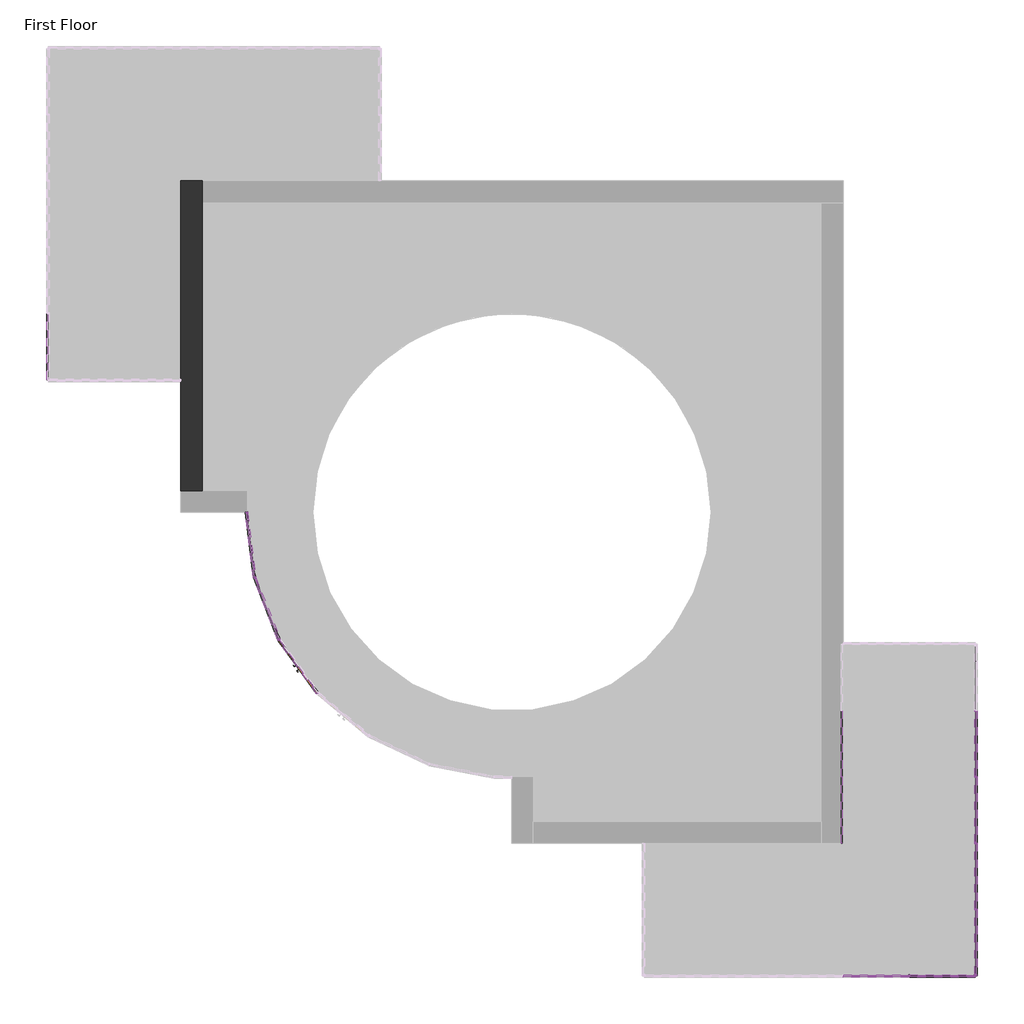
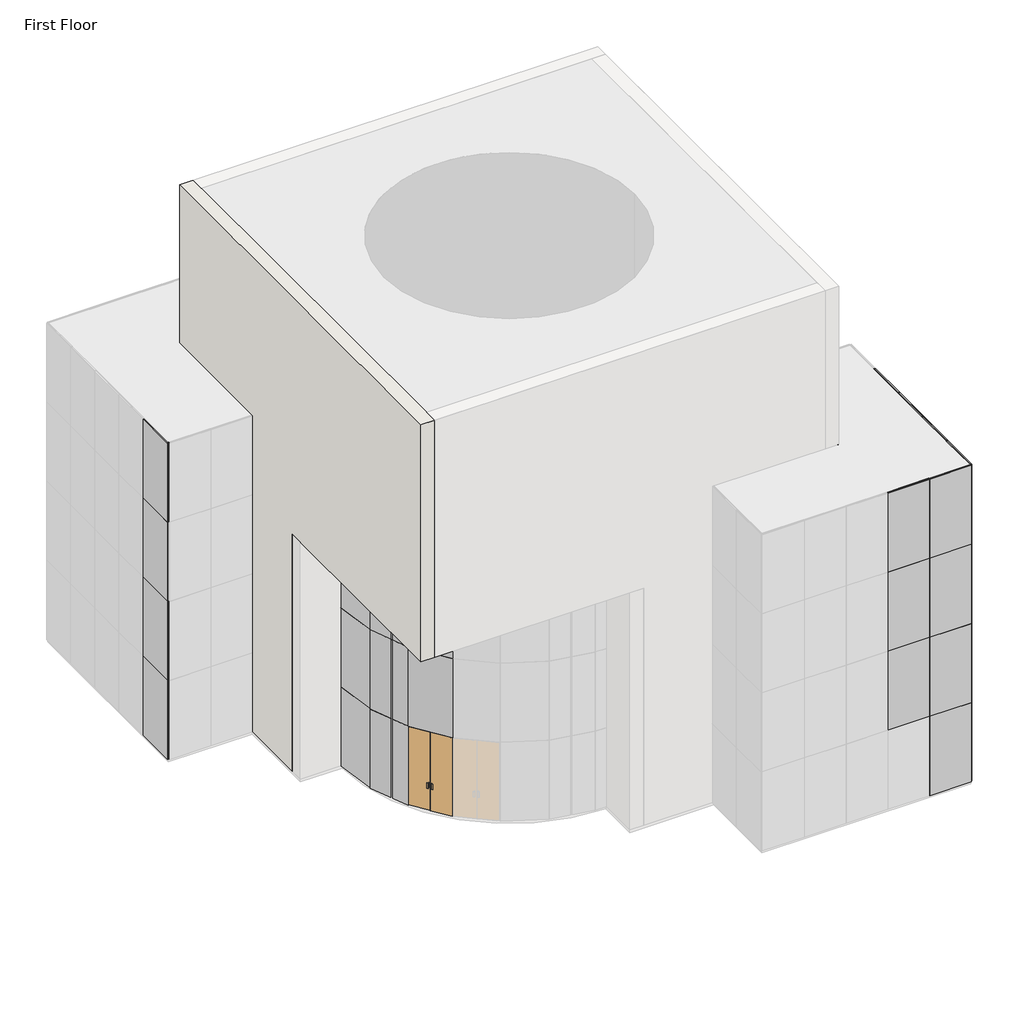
# One storey, part 2 of 4: 80 members, 43 plates, 1 door, 1 wall.
"""IFC4 building model written with IfcOpenShell, lengths in millimetres."""

from ifc_helpers import new_model, si_unit, origin, place, context, project, spatial, faceted_brep, transform, mapped, element, save
from components import door_curtain_wall_double_glass_door_curtain_wall_double_2d87b983, member_c999597c, member_cbdb9076, member_6d3da757, member_648f3f05, member_113f7001, member_7fb477b2, member_7e523723, member_e16e0e7d, member_15743826, member_c4f80b05, member_9fd3d903, member_6604d1e0, system_panel_glazed_c0c5e10a, system_panel_glazed_f4f95d4f

model = new_model("IFC4")

# Units and contexts
model_context = context("Model", 3, world=origin())
ifc_project = project(units=[si_unit("LENGTHUNIT", "METRE", prefix="MILLI")], contexts=[model_context])

# Site, building, storey
site = spatial("IfcSite", under=ifc_project)
building = spatial("IfcBuilding", under=site)
storey = spatial("IfcBuildingStorey", under=building, Name="First Floor", Elevation=0.0)

# Door
placement = place(None, origin())
door_curtain_wall_double_glass_door_curtain_wall_double_shape = door_curtain_wall_double_glass_door_curtain_wall_double_2d87b983(model_context)
element("IfcDoor", 1, ObjectType="Door-Curtain-Wall-Double-Glass : Door-Curtain-Wall-Double-Glass", at=placement, inside=storey, context=model_context, shape_type="MappedRepresentation", body=[
    mapped(door_curtain_wall_double_glass_door_curtain_wall_double_shape, transform((-8587.5385622, 405.4323781, 25.4), x_axis=(0.5864257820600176, -0.8100029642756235, 0.0), y_axis=(0.8100029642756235, 0.5864257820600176, 0.0), z_axis=(0.0, 0.0, 1.0))),
])

# Members
member_shape = member_c999597c(model_context)
element("IfcMember", 2, ObjectType="Rectangular Mullion : 1\" Square", at=placement, inside=storey, context=model_context, shape_type="MappedRepresentation", body=[
    mapped(member_shape, transform((-9781.313761, 3927.0446799, 0.0), x_axis=(0.0, 0.0, -1.0), y_axis=(-0.9921567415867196, -0.12500000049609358, 0.0), z_axis=(-0.12500000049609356, 0.9921567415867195, 0.0))),
])
member_2_shape = member_cbdb9076(model_context)
element("IfcMember", 3, ObjectType="Rectangular Mullion : 1\" Square", at=placement, inside=storey, context=model_context, shape_type="MappedRepresentation", body=[
    mapped(member_2_shape, transform((-9593.9887595, 2440.198581, 0.0), x_axis=(0.24803918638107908, -0.9687499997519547, 0.0), y_axis=(-0.9687499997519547, -0.24803918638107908, 0.0), z_axis=(0.0, 0.0, -1.0))),
])
element("IfcMember", 4, ObjectType="Rectangular Mullion : 1\" Square", at=placement, inside=storey, context=model_context, shape_type="MappedRepresentation", body=[
    mapped(member_2_shape, transform((-9034.3950081, 1022.6546369, 0.0), x_axis=(0.4805759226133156, -0.8769531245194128, 0.0), y_axis=(-0.8769531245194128, -0.4805759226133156, 0.0), z_axis=(0.0, 0.0, -1.0))),
])
element("IfcMember", 5, ObjectType="Rectangular Mullion : 1\" Square", at=placement, inside=storey, context=model_context, shape_type="MappedRepresentation", body=[
    mapped(member_2_shape, transform((5455.5112392, -6715.7545388, 0.0), x_axis=(1.0, 0.0, 0.0), y_axis=(0.0, -1.0, 0.0), z_axis=(0.0, 0.0, -1.0))),
])
element("IfcMember", 6, ObjectType="Rectangular Mullion : 1\" Square", at=placement, inside=storey, context=model_context, shape_type="MappedRepresentation", body=[
    mapped(member_2_shape, transform((6979.5112389, -5191.7545385, 0.0), x_axis=(0.0, 1.0, 0.0), y_axis=(1.0, 0.0, 0.0), z_axis=(0.0, 0.0, -1.0))),
])
element("IfcMember", 7, ObjectType="Rectangular Mullion : 1\" Square", at=placement, inside=storey, context=model_context, shape_type="MappedRepresentation", body=[
    mapped(member_2_shape, transform((6979.5112389, -3667.7545385, 0.0), x_axis=(0.0, 1.0, 0.0), y_axis=(1.0, 0.0, 0.0), z_axis=(0.0, 0.0, -1.0))),
])
element("IfcMember", 8, ObjectType="Rectangular Mullion : 1\" Square", at=placement, inside=storey, context=model_context, shape_type="MappedRepresentation", body=[
    mapped(member_2_shape, transform((6979.5112389, -2143.7545385, 0.0), x_axis=(0.0, 1.0, 0.0), y_axis=(1.0, 0.0, 0.0), z_axis=(0.0, 0.0, -1.0))),
])
element("IfcMember", 9, ObjectType="Rectangular Mullion : 1\" Square", at=placement, inside=storey, context=model_context, shape_type="MappedRepresentation", body=[
    mapped(member_2_shape, transform((6979.5112389, -619.7545385, 0.0), x_axis=(0.0, 1.0, 0.0), y_axis=(1.0, 0.0, 0.0), z_axis=(0.0, 0.0, -1.0))),
])
member_3_shape = member_6d3da757(model_context)
element("IfcMember", 10, ObjectType="Rectangular Mullion : 1\" Square", at=placement, inside=storey, context=model_context, shape_type="MappedRepresentation", body=[
    mapped(member_3_shape, transform((-9595.5762596, 2452.7989716, 3048.0), x_axis=(0.0, 0.0, 1.0), y_axis=(-0.9921567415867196, -0.12500000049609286, 0.0), z_axis=(0.12500000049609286, -0.9921567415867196, 0.0))),
])
element("IfcMember", 11, ObjectType="Rectangular Mullion : 1\" Square", at=placement, inside=storey, context=model_context, shape_type="MappedRepresentation", body=[
    mapped(member_3_shape, transform((-9595.5762596, 2452.7989716, 6096.0), x_axis=(0.0, 0.0, 1.0), y_axis=(-0.9921567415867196, -0.12500000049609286, 0.0), z_axis=(0.12500000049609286, -0.9921567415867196, 0.0))),
])
member_4_shape = member_648f3f05(model_context)
element("IfcMember", 12, ObjectType="Rectangular Mullion : 1\" Square", at=placement, inside=storey, context=model_context, shape_type="MappedRepresentation", body=[
    mapped(member_4_shape, transform((-9039.0582894, 1034.4675031, 3048.0), x_axis=(0.0, 0.0, 1.0), y_axis=(-0.9301469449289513, -0.367187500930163, 0.0), z_axis=(0.367187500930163, -0.9301469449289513, 0.0))),
])
element("IfcMember", 13, ObjectType="Rectangular Mullion : 1\" Square", at=placement, inside=storey, context=model_context, shape_type="MappedRepresentation", body=[
    mapped(member_4_shape, transform((-9039.0582894, 1034.4675031, 6096.0), x_axis=(0.0, 0.0, 1.0), y_axis=(-0.9301469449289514, -0.3671875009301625, 0.0), z_axis=(0.3671875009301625, -0.9301469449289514, 0.0))),
])
member_5_shape = member_113f7001(model_context)
element("IfcMember", 14, ObjectType="Rectangular Mullion : 1\" Square", at=placement, inside=storey, context=model_context, shape_type="MappedRepresentation", body=[
    mapped(member_5_shape, transform((-9589.3254783, 2428.3857148, 0.0), x_axis=(0.0, 0.0, -1.0), y_axis=(-0.9301469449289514, -0.3671875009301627, 0.0), z_axis=(-0.3671875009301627, 0.9301469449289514, 0.0))),
])
element("IfcMember", 15, ObjectType="Rectangular Mullion : 1\" Square", at=placement, inside=storey, context=model_context, shape_type="MappedRepresentation", body=[
    mapped(member_5_shape, transform((-9026.9474007, 1012.3675993, 0.0), x_axis=(0.0, 0.0, -1.0), y_axis=(-0.8100029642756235, -0.5864257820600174, 0.0), z_axis=(-0.5864257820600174, 0.8100029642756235, 0.0))),
])
member_6_shape = member_7fb477b2(model_context)
element("IfcMember", 16, ObjectType="Rectangular Mullion : 1\" Square", at=placement, inside=storey, context=model_context, shape_type="MappedRepresentation", body=[
    mapped(member_6_shape, transform((-9595.5762596, 2452.7989716, 9144.0), x_axis=(0.0, 0.0, 1.0), y_axis=(-0.9921567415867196, -0.12500000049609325, 0.0), z_axis=(0.12500000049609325, -0.9921567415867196, 0.0))),
])
element("IfcMember", 17, ObjectType="Rectangular Mullion : 1\" Square", at=placement, inside=storey, context=model_context, shape_type="MappedRepresentation", body=[
    mapped(member_5_shape, transform((-9039.0582894, 1034.4675031, 9144.0), x_axis=(0.0, 0.0, 1.0), y_axis=(-0.9301469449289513, -0.36718750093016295, 0.0), z_axis=(0.36718750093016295, -0.9301469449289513, 0.0))),
])
element("IfcMember", 18, ObjectType="Rectangular Mullion : 1\" Square", at=placement, inside=storey, context=model_context, shape_type="MappedRepresentation", body=[
    mapped(member_2_shape, transform((-9593.9887595, 2440.198581, 3048.0), x_axis=(0.24803918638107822, -0.968749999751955, 0.0), y_axis=(-0.968749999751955, -0.24803918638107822, 0.0), z_axis=(0.0, 0.0, -1.0))),
])
element("IfcMember", 19, ObjectType="Rectangular Mullion : 1\" Square", at=placement, inside=storey, context=model_context, shape_type="MappedRepresentation", body=[
    mapped(member_2_shape, transform((-9034.3950081, 1022.6546369, 3048.0), x_axis=(0.4805759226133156, -0.8769531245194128, 0.0), y_axis=(-0.8769531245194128, -0.4805759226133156, 0.0), z_axis=(0.0, 0.0, -1.0))),
])
element("IfcMember", 20, ObjectType="Rectangular Mullion : 1\" Square", at=placement, inside=storey, context=model_context, shape_type="MappedRepresentation", body=[
    mapped(member_2_shape, transform((5455.5112392, -6715.7545388, 3048.0), x_axis=(1.0, 0.0, 0.0), y_axis=(0.0, -1.0, 0.0), z_axis=(0.0, 0.0, -1.0))),
])
element("IfcMember", 21, ObjectType="Rectangular Mullion : 1\" Square", at=placement, inside=storey, context=model_context, shape_type="MappedRepresentation", body=[
    mapped(member_2_shape, transform((5455.5112392, -6715.7545388, 6096.0), x_axis=(1.0, 0.0, 0.0), y_axis=(0.0, -1.0, 0.0), z_axis=(0.0, 0.0, -1.0))),
])
element("IfcMember", 22, ObjectType="Rectangular Mullion : 1\" Square", at=placement, inside=storey, context=model_context, shape_type="MappedRepresentation", body=[
    mapped(member_2_shape, transform((6979.5112389, -5191.7545385, 3048.0), x_axis=(0.0, 1.0, 0.0), y_axis=(1.0, 0.0, 0.0), z_axis=(0.0, 0.0, -1.0))),
])
element("IfcMember", 23, ObjectType="Rectangular Mullion : 1\" Square", at=placement, inside=storey, context=model_context, shape_type="MappedRepresentation", body=[
    mapped(member_2_shape, transform((6979.5112389, -5191.7545385, 6096.0), x_axis=(0.0, 1.0, 0.0), y_axis=(1.0, 0.0, 0.0), z_axis=(0.0, 0.0, -1.0))),
])
element("IfcMember", 24, ObjectType="Rectangular Mullion : 1\" Square", at=placement, inside=storey, context=model_context, shape_type="MappedRepresentation", body=[
    mapped(member_2_shape, transform((6979.5112389, -3667.7545385, 3048.0), x_axis=(0.0, 1.0, 0.0), y_axis=(1.0, 0.0, 0.0), z_axis=(0.0, 0.0, -1.0))),
])
element("IfcMember", 25, ObjectType="Rectangular Mullion : 1\" Square", at=placement, inside=storey, context=model_context, shape_type="MappedRepresentation", body=[
    mapped(member_2_shape, transform((6979.5112389, -3667.7545385, 6096.0), x_axis=(0.0, 1.0, 0.0), y_axis=(1.0, 0.0, 0.0), z_axis=(0.0, 0.0, -1.0))),
])
element("IfcMember", 26, ObjectType="Rectangular Mullion : 1\" Square", at=placement, inside=storey, context=model_context, shape_type="MappedRepresentation", body=[
    mapped(member_2_shape, transform((6979.5112389, -2143.7545385, 3048.0), x_axis=(0.0, 1.0, 0.0), y_axis=(1.0, 0.0, 0.0), z_axis=(0.0, 0.0, -1.0))),
])
element("IfcMember", 27, ObjectType="Rectangular Mullion : 1\" Square", at=placement, inside=storey, context=model_context, shape_type="MappedRepresentation", body=[
    mapped(member_2_shape, transform((6979.5112389, -2143.7545385, 6096.0), x_axis=(0.0, 1.0, 0.0), y_axis=(1.0, 0.0, 0.0), z_axis=(0.0, 0.0, -1.0))),
])
element("IfcMember", 28, ObjectType="Rectangular Mullion : 1\" Square", at=placement, inside=storey, context=model_context, shape_type="MappedRepresentation", body=[
    mapped(member_2_shape, transform((6979.5112389, -619.7545385, 3048.0), x_axis=(0.0, 1.0, 0.0), y_axis=(1.0, 0.0, 0.0), z_axis=(0.0, 0.0, -1.0))),
])
element("IfcMember", 29, ObjectType="Rectangular Mullion : 1\" Square", at=placement, inside=storey, context=model_context, shape_type="MappedRepresentation", body=[
    mapped(member_2_shape, transform((6979.5112389, -619.7545385, 6096.0), x_axis=(0.0, 1.0, 0.0), y_axis=(1.0, 0.0, 0.0), z_axis=(0.0, 0.0, -1.0))),
])
element("IfcMember", 30, ObjectType="Rectangular Mullion : 1\" Square", at=placement, inside=storey, context=model_context, shape_type="MappedRepresentation", body=[
    mapped(member_2_shape, transform((-9593.9887595, 2440.198581, 6096.0), x_axis=(0.24803918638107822, -0.968749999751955, 0.0), y_axis=(-0.968749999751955, -0.24803918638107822, 0.0), z_axis=(0.0, 0.0, -1.0))),
])
element("IfcMember", 31, ObjectType="Rectangular Mullion : 1\" Square", at=placement, inside=storey, context=model_context, shape_type="MappedRepresentation", body=[
    mapped(member_2_shape, transform((-9034.3950081, 1022.6546369, 6096.0), x_axis=(0.4805759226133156, -0.8769531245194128, 0.0), y_axis=(-0.8769531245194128, -0.4805759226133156, 0.0), z_axis=(0.0, 0.0, -1.0))),
])
element("IfcMember", 32, ObjectType="Rectangular Mullion : 1\" Square", at=placement, inside=storey, context=model_context, shape_type="MappedRepresentation", body=[
    mapped(member_2_shape, transform((5455.5112392, -6715.7545388, 9144.0), x_axis=(1.0, 0.0, 0.0), y_axis=(0.0, -1.0, 0.0), z_axis=(0.0, 0.0, -1.0))),
])
element("IfcMember", 33, ObjectType="Rectangular Mullion : 1\" Square", at=placement, inside=storey, context=model_context, shape_type="MappedRepresentation", body=[
    mapped(member_2_shape, transform((6979.5112389, -5191.7545385, 9144.0), x_axis=(0.0, 1.0, 0.0), y_axis=(1.0, 0.0, 0.0), z_axis=(0.0, 0.0, -1.0))),
])
element("IfcMember", 34, ObjectType="Rectangular Mullion : 1\" Square", at=placement, inside=storey, context=model_context, shape_type="MappedRepresentation", body=[
    mapped(member_2_shape, transform((6979.5112389, -3667.7545385, 9144.0), x_axis=(0.0, 1.0, 0.0), y_axis=(1.0, 0.0, 0.0), z_axis=(0.0, 0.0, -1.0))),
])
element("IfcMember", 35, ObjectType="Rectangular Mullion : 1\" Square", at=placement, inside=storey, context=model_context, shape_type="MappedRepresentation", body=[
    mapped(member_2_shape, transform((6979.5112389, -2143.7545385, 9144.0), x_axis=(0.0, 1.0, 0.0), y_axis=(1.0, 0.0, 0.0), z_axis=(0.0, 0.0, -1.0))),
])
element("IfcMember", 36, ObjectType="Rectangular Mullion : 1\" Square", at=placement, inside=storey, context=model_context, shape_type="MappedRepresentation", body=[
    mapped(member_2_shape, transform((6979.5112389, -619.7545385, 9144.0), x_axis=(0.0, 1.0, 0.0), y_axis=(1.0, 0.0, 0.0), z_axis=(0.0, 0.0, -1.0))),
])
member_7_shape = member_7e523723(model_context)
element("IfcMember", 37, ObjectType="Rectangular Mullion : 1\" Square", at=placement, inside=storey, context=model_context, shape_type="MappedRepresentation", body=[
    mapped(member_7_shape, transform((6979.5112389, -6715.7545388, 0.0), x_axis=(1.0, 0.0, 0.0), y_axis=(0.0, -1.0, 0.0), z_axis=(0.0, 0.0, -1.0))),
])
element("IfcMember", 38, ObjectType="Rectangular Mullion : 1\" Square", at=placement, inside=storey, context=model_context, shape_type="MappedRepresentation", body=[
    mapped(member_7_shape, transform((-9784.4887611, 3952.2454612, 9144.0), x_axis=(-0.12500000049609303, 0.9921567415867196, 0.0), y_axis=(-0.9921567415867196, -0.12500000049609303, 0.0), z_axis=(0.0, 0.0, 1.0))),
])
element("IfcMember", 39, ObjectType="Rectangular Mullion : 1\" Square", at=placement, inside=storey, context=model_context, shape_type="MappedRepresentation", body=[
    mapped(member_7_shape, transform((-14356.4887611, 7000.2454612, 12192.0), x_axis=(-1.0, 0.0, 0.0), y_axis=(0.0, -1.0, 0.0), z_axis=(0.0, 0.0, 1.0))),
])
element("IfcMember", 40, ObjectType="Rectangular Mullion : 1\" Square", at=placement, inside=storey, context=model_context, shape_type="MappedRepresentation", body=[
    mapped(member_7_shape, transform((6979.5112389, -6715.7545388, 12192.0), x_axis=(0.0, -1.0, 0.0), y_axis=(1.0, 0.0, 0.0), z_axis=(0.0, 0.0, 1.0))),
])
element("IfcMember", 41, ObjectType="Rectangular Mullion : 1\" Square", at=placement, inside=storey, context=model_context, shape_type="MappedRepresentation", body=[
    mapped(member_7_shape, transform((-9784.4887611, 3952.2454612, 3048.0), x_axis=(-0.12500000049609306, 0.9921567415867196, 0.0), y_axis=(-0.9921567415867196, -0.12500000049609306, 0.0), z_axis=(0.0, 0.0, 1.0))),
])
element("IfcMember", 42, ObjectType="Rectangular Mullion : 1\" Square", at=placement, inside=storey, context=model_context, shape_type="MappedRepresentation", body=[
    mapped(member_7_shape, transform((-14356.4887611, 7000.2454612, 3048.0), x_axis=(-1.0, 0.0, 0.0), y_axis=(0.0, -1.0, 0.0), z_axis=(0.0, 0.0, 1.0))),
])
element("IfcMember", 43, ObjectType="Rectangular Mullion : 1\" Square", at=placement, inside=storey, context=model_context, shape_type="MappedRepresentation", body=[
    mapped(member_7_shape, transform((6979.5112389, -6715.7545388, 3048.0), x_axis=(0.0, -1.0, 0.0), y_axis=(1.0, 0.0, 0.0), z_axis=(0.0, 0.0, 1.0))),
])
element("IfcMember", 44, ObjectType="Rectangular Mullion : 1\" Square", at=placement, inside=storey, context=model_context, shape_type="MappedRepresentation", body=[
    mapped(member_7_shape, transform((-9784.4887611, 3952.2454612, 6096.0), x_axis=(-0.12500000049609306, 0.9921567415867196, 0.0), y_axis=(-0.9921567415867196, -0.12500000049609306, 0.0), z_axis=(0.0, 0.0, 1.0))),
])
element("IfcMember", 45, ObjectType="Rectangular Mullion : 1\" Square", at=placement, inside=storey, context=model_context, shape_type="MappedRepresentation", body=[
    mapped(member_7_shape, transform((-14356.4887611, 7000.2454612, 6096.0), x_axis=(-1.0, 0.0, 0.0), y_axis=(0.0, -1.0, 0.0), z_axis=(0.0, 0.0, 1.0))),
])
element("IfcMember", 46, ObjectType="Rectangular Mullion : 1\" Square", at=placement, inside=storey, context=model_context, shape_type="MappedRepresentation", body=[
    mapped(member_7_shape, transform((6979.5112389, -6715.7545388, 6096.0), x_axis=(0.0, -1.0, 0.0), y_axis=(1.0, 0.0, 0.0), z_axis=(0.0, 0.0, 1.0))),
])
element("IfcMember", 47, ObjectType="Rectangular Mullion : 1\" Square", at=placement, inside=storey, context=model_context, shape_type="MappedRepresentation", body=[
    mapped(member_7_shape, transform((6979.5112389, -6715.7545388, 9144.0), x_axis=(0.0, -1.0, 0.0), y_axis=(1.0, 0.0, 0.0), z_axis=(0.0, 0.0, 1.0))),
])
element("IfcMember", 48, ObjectType="Rectangular Mullion : 1\" Square", at=placement, inside=storey, context=model_context, shape_type="MappedRepresentation", body=[
    mapped(member_7_shape, transform((6979.5112389, -6715.7545388, 3048.0), x_axis=(1.0, 0.0, 0.0), y_axis=(0.0, -1.0, 0.0), z_axis=(0.0, 0.0, -1.0))),
])
element("IfcMember", 49, ObjectType="Rectangular Mullion : 1\" Square", at=placement, inside=storey, context=model_context, shape_type="MappedRepresentation", body=[
    mapped(member_7_shape, transform((6979.5112389, -6715.7545388, 6096.0), x_axis=(1.0, 0.0, 0.0), y_axis=(0.0, -1.0, 0.0), z_axis=(0.0, 0.0, -1.0))),
])
element("IfcMember", 50, ObjectType="Rectangular Mullion : 1\" Square", at=placement, inside=storey, context=model_context, shape_type="MappedRepresentation", body=[
    mapped(member_7_shape, transform((6979.5112389, -6715.7545388, 9144.0), x_axis=(1.0, 0.0, 0.0), y_axis=(0.0, -1.0, 0.0), z_axis=(0.0, 0.0, -1.0))),
])
member_8_shape = member_e16e0e7d(model_context)
element("IfcMember", 51, ObjectType="Rectangular Mullion : 1\" Square", at=placement, inside=storey, context=model_context, shape_type="MappedRepresentation", body=[
    mapped(member_8_shape, transform((6954.1112389, -6715.7545388, 12192.0), x_axis=(0.0, 0.0, 1.0), y_axis=(0.0, -1.0, 0.0), z_axis=(1.0, 0.0, 0.0))),
])
element("IfcMember", 52, ObjectType="Rectangular Mullion : 1\" Square", at=placement, inside=storey, context=model_context, shape_type="MappedRepresentation", body=[
    mapped(member_8_shape, transform((6979.5112389, -5204.4545385, 12192.0), x_axis=(0.0, 0.0, 1.0), y_axis=(1.0, 0.0, 0.0), z_axis=(0.0, 1.0, 0.0))),
])
member_9_shape = member_15743826(model_context)
element("IfcMember", 53, ObjectType="Rectangular Mullion : 1\" Square", at=placement, inside=storey, context=model_context, shape_type="MappedRepresentation", body=[
    mapped(member_9_shape, transform((-14331.0887611, 7000.2454612, 0.0), x_axis=(0.0, 0.0, -1.0), y_axis=(0.0, -1.0, 0.0), z_axis=(-1.0, 0.0, 0.0))),
])
element("IfcMember", 54, ObjectType="Rectangular Mullion : 1\" Square", at=placement, inside=storey, context=model_context, shape_type="MappedRepresentation", body=[
    mapped(member_9_shape, transform((5468.2112392, -6715.7545388, 0.0), x_axis=(0.0, 0.0, -1.0), y_axis=(0.0, -1.0, 0.0), z_axis=(-1.0, 0.0, 0.0))),
])
element("IfcMember", 55, ObjectType="Rectangular Mullion : 1\" Square", at=placement, inside=storey, context=model_context, shape_type="MappedRepresentation", body=[
    mapped(member_9_shape, transform((6979.5112389, -6690.3545388, 0.0), x_axis=(0.0, 0.0, -1.0), y_axis=(1.0, 0.0, 0.0), z_axis=(0.0, -1.0, 0.0))),
])
element("IfcMember", 56, ObjectType="Rectangular Mullion : 1\" Square", at=placement, inside=storey, context=model_context, shape_type="MappedRepresentation", body=[
    mapped(member_9_shape, transform((6979.5112389, -607.0545385, 0.0), x_axis=(0.0, 0.0, -1.0), y_axis=(1.0, 0.0, 0.0), z_axis=(0.0, -1.0, 0.0))),
])
member_10_shape = member_c4f80b05(model_context)
element("IfcMember", 57, ObjectType="Rectangular Mullion : 1\" Square", at=placement, inside=storey, context=model_context, shape_type="MappedRepresentation", body=[
    mapped(member_10_shape, transform((6954.1112389, -6715.7545388, 3048.0), x_axis=(0.0, 0.0, 1.0), y_axis=(0.0, -1.0, 0.0), z_axis=(1.0, 0.0, 0.0))),
])
element("IfcMember", 58, ObjectType="Rectangular Mullion : 1\" Square", at=placement, inside=storey, context=model_context, shape_type="MappedRepresentation", body=[
    mapped(member_10_shape, transform((6954.1112389, -6715.7545388, 6096.0), x_axis=(0.0, 0.0, 1.0), y_axis=(0.0, -1.0, 0.0), z_axis=(1.0, 0.0, 0.0))),
])
element("IfcMember", 59, ObjectType="Rectangular Mullion : 1\" Square", at=placement, inside=storey, context=model_context, shape_type="MappedRepresentation", body=[
    mapped(member_10_shape, transform((6954.1112389, -6715.7545388, 9144.0), x_axis=(0.0, 0.0, 1.0), y_axis=(0.0, -1.0, 0.0), z_axis=(1.0, 0.0, 0.0))),
])
element("IfcMember", 60, ObjectType="Rectangular Mullion : 1\" Square", at=placement, inside=storey, context=model_context, shape_type="MappedRepresentation", body=[
    mapped(member_10_shape, transform((6979.5112389, -5204.4545385, 3048.0), x_axis=(0.0, 0.0, 1.0), y_axis=(1.0, 0.0, 0.0), z_axis=(0.0, 1.0, 0.0))),
])
element("IfcMember", 61, ObjectType="Rectangular Mullion : 1\" Square", at=placement, inside=storey, context=model_context, shape_type="MappedRepresentation", body=[
    mapped(member_10_shape, transform((6979.5112389, -5204.4545385, 6096.0), x_axis=(0.0, 0.0, 1.0), y_axis=(1.0, 0.0, 0.0), z_axis=(0.0, 1.0, 0.0))),
])
element("IfcMember", 62, ObjectType="Rectangular Mullion : 1\" Square", at=placement, inside=storey, context=model_context, shape_type="MappedRepresentation", body=[
    mapped(member_10_shape, transform((6979.5112389, -5204.4545385, 9144.0), x_axis=(0.0, 0.0, 1.0), y_axis=(1.0, 0.0, 0.0), z_axis=(0.0, 1.0, 0.0))),
])
member_11_shape = member_9fd3d903(model_context)
element("IfcMember", 63, ObjectType="Rectangular Mullion : 1\" Square", at=placement, inside=storey, context=model_context, shape_type="MappedRepresentation", body=[
    mapped(member_11_shape, transform((5442.8112392, -6715.7545388, 3048.0), x_axis=(0.0, 0.0, 1.0), y_axis=(0.0, -1.0, 0.0), z_axis=(1.0, 0.0, 0.0))),
])
element("IfcMember", 64, ObjectType="Rectangular Mullion : 1\" Square", at=placement, inside=storey, context=model_context, shape_type="MappedRepresentation", body=[
    mapped(member_11_shape, transform((5442.8112392, -6715.7545388, 6096.0), x_axis=(0.0, 0.0, 1.0), y_axis=(0.0, -1.0, 0.0), z_axis=(1.0, 0.0, 0.0))),
])
element("IfcMember", 65, ObjectType="Rectangular Mullion : 1\" Square", at=placement, inside=storey, context=model_context, shape_type="MappedRepresentation", body=[
    mapped(member_11_shape, transform((5442.8112392, -6715.7545388, 9144.0), x_axis=(0.0, 0.0, 1.0), y_axis=(0.0, -1.0, 0.0), z_axis=(1.0, 0.0, 0.0))),
])
element("IfcMember", 66, ObjectType="Rectangular Mullion : 1\" Square", at=placement, inside=storey, context=model_context, shape_type="MappedRepresentation", body=[
    mapped(member_11_shape, transform((6979.5112389, -3680.4545385, 3048.0), x_axis=(0.0, 0.0, 1.0), y_axis=(1.0, 0.0, 0.0), z_axis=(0.0, 1.0, 0.0))),
])
element("IfcMember", 67, ObjectType="Rectangular Mullion : 1\" Square", at=placement, inside=storey, context=model_context, shape_type="MappedRepresentation", body=[
    mapped(member_11_shape, transform((6979.5112389, -2156.4545385, 3048.0), x_axis=(0.0, 0.0, 1.0), y_axis=(1.0, 0.0, 0.0), z_axis=(0.0, 1.0, 0.0))),
])
element("IfcMember", 68, ObjectType="Rectangular Mullion : 1\" Square", at=placement, inside=storey, context=model_context, shape_type="MappedRepresentation", body=[
    mapped(member_11_shape, transform((6979.5112389, -632.4545385, 3048.0), x_axis=(0.0, 0.0, 1.0), y_axis=(1.0, 0.0, 0.0), z_axis=(0.0, 1.0, 0.0))),
])
element("IfcMember", 69, ObjectType="Rectangular Mullion : 1\" Square", at=placement, inside=storey, context=model_context, shape_type="MappedRepresentation", body=[
    mapped(member_11_shape, transform((6979.5112389, -3680.4545385, 6096.0), x_axis=(0.0, 0.0, 1.0), y_axis=(1.0, 0.0, 0.0), z_axis=(0.0, 1.0, 0.0))),
])
element("IfcMember", 70, ObjectType="Rectangular Mullion : 1\" Square", at=placement, inside=storey, context=model_context, shape_type="MappedRepresentation", body=[
    mapped(member_11_shape, transform((6979.5112389, -2156.4545385, 6096.0), x_axis=(0.0, 0.0, 1.0), y_axis=(1.0, 0.0, 0.0), z_axis=(0.0, 1.0, 0.0))),
])
element("IfcMember", 71, ObjectType="Rectangular Mullion : 1\" Square", at=placement, inside=storey, context=model_context, shape_type="MappedRepresentation", body=[
    mapped(member_11_shape, transform((6979.5112389, -632.4545385, 6096.0), x_axis=(0.0, 0.0, 1.0), y_axis=(1.0, 0.0, 0.0), z_axis=(0.0, 1.0, 0.0))),
])
element("IfcMember", 72, ObjectType="Rectangular Mullion : 1\" Square", at=placement, inside=storey, context=model_context, shape_type="MappedRepresentation", body=[
    mapped(member_11_shape, transform((6979.5112389, -3680.4545385, 9144.0), x_axis=(0.0, 0.0, 1.0), y_axis=(1.0, 0.0, 0.0), z_axis=(0.0, 1.0, 0.0))),
])
element("IfcMember", 73, ObjectType="Rectangular Mullion : 1\" Square", at=placement, inside=storey, context=model_context, shape_type="MappedRepresentation", body=[
    mapped(member_11_shape, transform((6979.5112389, -2156.4545385, 9144.0), x_axis=(0.0, 0.0, 1.0), y_axis=(1.0, 0.0, 0.0), z_axis=(0.0, 1.0, 0.0))),
])
element("IfcMember", 74, ObjectType="Rectangular Mullion : 1\" Square", at=placement, inside=storey, context=model_context, shape_type="MappedRepresentation", body=[
    mapped(member_11_shape, transform((6979.5112389, -632.4545385, 9144.0), x_axis=(0.0, 0.0, 1.0), y_axis=(1.0, 0.0, 0.0), z_axis=(0.0, 1.0, 0.0))),
])
member_12_shape = member_6604d1e0(model_context)
element("IfcMember", 75, ObjectType="Rectangular Mullion : 1\" Square", at=placement, inside=storey, context=model_context, shape_type="MappedRepresentation", body=[
    mapped(member_12_shape, transform((6979.5112389, -5179.0545385, 0.0), x_axis=(0.0, 0.0, -1.0), y_axis=(1.0, 0.0, 0.0), z_axis=(0.0, -1.0, 0.0))),
])
element("IfcMember", 76, ObjectType="Rectangular Mullion : 1\" Square", at=placement, inside=storey, context=model_context, shape_type="MappedRepresentation", body=[
    mapped(member_12_shape, transform((6979.5112389, -3655.0545385, 0.0), x_axis=(0.0, 0.0, -1.0), y_axis=(1.0, 0.0, 0.0), z_axis=(0.0, -1.0, 0.0))),
])
element("IfcMember", 77, ObjectType="Rectangular Mullion : 1\" Square", at=placement, inside=storey, context=model_context, shape_type="MappedRepresentation", body=[
    mapped(member_12_shape, transform((6979.5112389, -2131.0545385, 0.0), x_axis=(0.0, 0.0, -1.0), y_axis=(1.0, 0.0, 0.0), z_axis=(0.0, -1.0, 0.0))),
])
element("IfcMember", 78, ObjectType="Rectangular Mullion : 1\" Square", at=placement, inside=storey, context=model_context, shape_type="MappedRepresentation", body=[
    mapped(member_12_shape, transform((5442.8112392, -6715.7545388, 12192.0), x_axis=(0.0, 0.0, 1.0), y_axis=(0.0, -1.0, 0.0), z_axis=(1.0, 0.0, 0.0))),
])
element("IfcMember", 79, ObjectType="Rectangular Mullion : 1\" Square", at=placement, inside=storey, context=model_context, shape_type="MappedRepresentation", body=[
    mapped(member_12_shape, transform((6979.5112389, -3680.4545385, 12192.0), x_axis=(0.0, 0.0, 1.0), y_axis=(1.0, 0.0, 0.0), z_axis=(0.0, 1.0, 0.0))),
])
element("IfcMember", 80, ObjectType="Rectangular Mullion : 1\" Square", at=placement, inside=storey, context=model_context, shape_type="MappedRepresentation", body=[
    mapped(member_12_shape, transform((6979.5112389, -2156.4545385, 12192.0), x_axis=(0.0, 0.0, 1.0), y_axis=(1.0, 0.0, 0.0), z_axis=(0.0, 1.0, 0.0))),
])
element("IfcMember", 81, ObjectType="Rectangular Mullion : 1\" Square", at=placement, inside=storey, context=model_context, shape_type="MappedRepresentation", body=[
    mapped(member_12_shape, transform((6979.5112389, -632.4545385, 12192.0), x_axis=(0.0, 0.0, 1.0), y_axis=(1.0, 0.0, 0.0), z_axis=(0.0, 1.0, 0.0))),
])

# Plates
system_panel_glazed_shape = system_panel_glazed_c0c5e10a(model_context)
element("IfcPlate", 82, ObjectType="System Panel : Glazed", at=placement, inside=storey, context=model_context, shape_type="MappedRepresentation", body=[
    mapped(system_panel_glazed_shape, transform((-14356.4887611, 7762.245461, 0.0), x_axis=(0.0, -1.0, 0.0), y_axis=(1.0, 0.0, 0.0), z_axis=(0.0, 0.0, 1.0))),
])
element("IfcPlate", 83, ObjectType="System Panel : Glazed", at=placement, inside=storey, context=model_context, shape_type="MappedRepresentation", body=[
    mapped(system_panel_glazed_shape, transform((-14356.4887611, 7762.245461, 3048.0), x_axis=(0.0, -1.0, 0.0), y_axis=(1.0, 0.0, 0.0), z_axis=(0.0, 0.0, 1.0))),
])
element("IfcPlate", 84, ObjectType="System Panel : Glazed", at=placement, inside=storey, context=model_context, shape_type="MappedRepresentation", body=[
    mapped(system_panel_glazed_shape, transform((-14356.4887611, 7762.245461, 6096.0), x_axis=(0.0, -1.0, 0.0), y_axis=(1.0, 0.0, 0.0), z_axis=(0.0, 0.0, 1.0))),
])
element("IfcPlate", 85, ObjectType="System Panel : Glazed", at=placement, inside=storey, context=model_context, shape_type="MappedRepresentation", body=[
    mapped(system_panel_glazed_shape, transform((-14356.4887611, 7762.245461, 9144.0), x_axis=(0.0, -1.0, 0.0), y_axis=(1.0, 0.0, 0.0), z_axis=(0.0, 0.0, 1.0))),
])
element("IfcPlate", 86, ObjectType="System Panel : Glazed", at=placement, inside=storey, context=model_context, shape_type="MappedRepresentation", body=[
    mapped(system_panel_glazed_shape, transform((6217.5112391, -6715.7545388, 0.0), x_axis=(1.0, 0.0, 0.0), y_axis=(0.0, 1.0, 0.0), z_axis=(0.0, 0.0, 1.0))),
])
element("IfcPlate", 87, ObjectType="System Panel : Glazed", at=placement, inside=storey, context=model_context, shape_type="MappedRepresentation", body=[
    mapped(system_panel_glazed_shape, transform((4693.5112392, -6715.7545388, 3048.0), x_axis=(1.0, 0.0, 0.0), y_axis=(0.0, 1.0, 0.0), z_axis=(0.0, 0.0, 1.0))),
])
element("IfcPlate", 88, ObjectType="System Panel : Glazed", at=placement, inside=storey, context=model_context, shape_type="MappedRepresentation", body=[
    mapped(system_panel_glazed_shape, transform((6217.5112391, -6715.7545388, 3048.0), x_axis=(1.0, 0.0, 0.0), y_axis=(0.0, 1.0, 0.0), z_axis=(0.0, 0.0, 1.0))),
])
element("IfcPlate", 89, ObjectType="System Panel : Glazed", at=placement, inside=storey, context=model_context, shape_type="MappedRepresentation", body=[
    mapped(system_panel_glazed_shape, transform((4693.5112392, -6715.7545388, 6096.0), x_axis=(1.0, 0.0, 0.0), y_axis=(0.0, 1.0, 0.0), z_axis=(0.0, 0.0, 1.0))),
])
element("IfcPlate", 90, ObjectType="System Panel : Glazed", at=placement, inside=storey, context=model_context, shape_type="MappedRepresentation", body=[
    mapped(system_panel_glazed_shape, transform((6217.5112391, -6715.7545388, 6096.0), x_axis=(1.0, 0.0, 0.0), y_axis=(0.0, 1.0, 0.0), z_axis=(0.0, 0.0, 1.0))),
])
element("IfcPlate", 91, ObjectType="System Panel : Glazed", at=placement, inside=storey, context=model_context, shape_type="MappedRepresentation", body=[
    mapped(system_panel_glazed_shape, transform((4693.5112392, -6715.7545388, 9144.0), x_axis=(1.0, 0.0, 0.0), y_axis=(0.0, 1.0, 0.0), z_axis=(0.0, 0.0, 1.0))),
])
element("IfcPlate", 92, ObjectType="System Panel : Glazed", at=placement, inside=storey, context=model_context, shape_type="MappedRepresentation", body=[
    mapped(system_panel_glazed_shape, transform((6217.5112391, -6715.7545388, 9144.0), x_axis=(1.0, 0.0, 0.0), y_axis=(0.0, 1.0, 0.0), z_axis=(0.0, 0.0, 1.0))),
])
element("IfcPlate", 93, ObjectType="System Panel : Glazed", at=placement, inside=storey, context=model_context, shape_type="MappedRepresentation", body=[
    mapped(system_panel_glazed_shape, transform((3931.5112389, -1381.7545391, 0.0), x_axis=(0.0, -1.0, 0.0), y_axis=(1.0, 0.0, 0.0), z_axis=(0.0, 0.0, 1.0))),
])
element("IfcPlate", 94, ObjectType="System Panel : Glazed", at=placement, inside=storey, context=model_context, shape_type="MappedRepresentation", body=[
    mapped(system_panel_glazed_shape, transform((3931.5112389, -2905.754539, 0.0), x_axis=(0.0, -1.0, 0.0), y_axis=(1.0, 0.0, 0.0), z_axis=(0.0, 0.0, 1.0))),
])
element("IfcPlate", 95, ObjectType="System Panel : Glazed", at=placement, inside=storey, context=model_context, shape_type="MappedRepresentation", body=[
    mapped(system_panel_glazed_shape, transform((3931.5112389, -1381.7545391, 3048.0), x_axis=(0.0, -1.0, 0.0), y_axis=(1.0, 0.0, 0.0), z_axis=(0.0, 0.0, 1.0))),
])
element("IfcPlate", 96, ObjectType="System Panel : Glazed", at=placement, inside=storey, context=model_context, shape_type="MappedRepresentation", body=[
    mapped(system_panel_glazed_shape, transform((3931.5112389, -2905.754539, 3048.0), x_axis=(0.0, -1.0, 0.0), y_axis=(1.0, 0.0, 0.0), z_axis=(0.0, 0.0, 1.0))),
])
element("IfcPlate", 97, ObjectType="System Panel : Glazed", at=placement, inside=storey, context=model_context, shape_type="MappedRepresentation", body=[
    mapped(system_panel_glazed_shape, transform((3931.5112389, -1381.7545391, 6096.0), x_axis=(0.0, -1.0, 0.0), y_axis=(1.0, 0.0, 0.0), z_axis=(0.0, 0.0, 1.0))),
])
element("IfcPlate", 98, ObjectType="System Panel : Glazed", at=placement, inside=storey, context=model_context, shape_type="MappedRepresentation", body=[
    mapped(system_panel_glazed_shape, transform((3931.5112389, -2905.754539, 6096.0), x_axis=(0.0, -1.0, 0.0), y_axis=(1.0, 0.0, 0.0), z_axis=(0.0, 0.0, 1.0))),
])
element("IfcPlate", 99, ObjectType="System Panel : Glazed", at=placement, inside=storey, context=model_context, shape_type="MappedRepresentation", body=[
    mapped(system_panel_glazed_shape, transform((3931.5112389, -1381.7545391, 9144.0), x_axis=(0.0, -1.0, 0.0), y_axis=(1.0, 0.0, 0.0), z_axis=(0.0, 0.0, 1.0))),
])
element("IfcPlate", 100, ObjectType="System Panel : Glazed", at=placement, inside=storey, context=model_context, shape_type="MappedRepresentation", body=[
    mapped(system_panel_glazed_shape, transform((3931.5112389, -2905.754539, 9144.0), x_axis=(0.0, -1.0, 0.0), y_axis=(1.0, 0.0, 0.0), z_axis=(0.0, 0.0, 1.0))),
])
element("IfcPlate", 101, ObjectType="System Panel : Glazed", at=placement, inside=storey, context=model_context, shape_type="MappedRepresentation", body=[
    mapped(system_panel_glazed_shape, transform((6979.5112389, -5953.7545387, 0.0), x_axis=(0.0, 1.0, 0.0), y_axis=(-1.0, 0.0, 0.0), z_axis=(0.0, 0.0, 1.0))),
])
element("IfcPlate", 102, ObjectType="System Panel : Glazed", at=placement, inside=storey, context=model_context, shape_type="MappedRepresentation", body=[
    mapped(system_panel_glazed_shape, transform((6979.5112389, -4429.7545385, 0.0), x_axis=(0.0, 1.0, 0.0), y_axis=(-1.0, 0.0, 0.0), z_axis=(0.0, 0.0, 1.0))),
])
element("IfcPlate", 103, ObjectType="System Panel : Glazed", at=placement, inside=storey, context=model_context, shape_type="MappedRepresentation", body=[
    mapped(system_panel_glazed_shape, transform((6979.5112389, -2905.7545385, 0.0), x_axis=(0.0, 1.0, 0.0), y_axis=(-1.0, 0.0, 0.0), z_axis=(0.0, 0.0, 1.0))),
])
element("IfcPlate", 104, ObjectType="System Panel : Glazed", at=placement, inside=storey, context=model_context, shape_type="MappedRepresentation", body=[
    mapped(system_panel_glazed_shape, transform((6979.5112389, -1381.7545385, 0.0), x_axis=(0.0, 1.0, 0.0), y_axis=(-1.0, 0.0, 0.0), z_axis=(0.0, 0.0, 1.0))),
])
element("IfcPlate", 105, ObjectType="System Panel : Glazed", at=placement, inside=storey, context=model_context, shape_type="MappedRepresentation", body=[
    mapped(system_panel_glazed_shape, transform((6979.5112389, -5953.7545387, 3048.0), x_axis=(0.0, 1.0, 0.0), y_axis=(-1.0, 0.0, 0.0), z_axis=(0.0, 0.0, 1.0))),
])
element("IfcPlate", 106, ObjectType="System Panel : Glazed", at=placement, inside=storey, context=model_context, shape_type="MappedRepresentation", body=[
    mapped(system_panel_glazed_shape, transform((6979.5112389, -4429.7545385, 3048.0), x_axis=(0.0, 1.0, 0.0), y_axis=(-1.0, 0.0, 0.0), z_axis=(0.0, 0.0, 1.0))),
])
element("IfcPlate", 107, ObjectType="System Panel : Glazed", at=placement, inside=storey, context=model_context, shape_type="MappedRepresentation", body=[
    mapped(system_panel_glazed_shape, transform((6979.5112389, -2905.7545385, 3048.0), x_axis=(0.0, 1.0, 0.0), y_axis=(-1.0, 0.0, 0.0), z_axis=(0.0, 0.0, 1.0))),
])
element("IfcPlate", 108, ObjectType="System Panel : Glazed", at=placement, inside=storey, context=model_context, shape_type="MappedRepresentation", body=[
    mapped(system_panel_glazed_shape, transform((6979.5112389, -1381.7545385, 3048.0), x_axis=(0.0, 1.0, 0.0), y_axis=(-1.0, 0.0, 0.0), z_axis=(0.0, 0.0, 1.0))),
])
element("IfcPlate", 109, ObjectType="System Panel : Glazed", at=placement, inside=storey, context=model_context, shape_type="MappedRepresentation", body=[
    mapped(system_panel_glazed_shape, transform((6979.5112389, -5953.7545387, 6096.0), x_axis=(0.0, 1.0, 0.0), y_axis=(-1.0, 0.0, 0.0), z_axis=(0.0, 0.0, 1.0))),
])
element("IfcPlate", 110, ObjectType="System Panel : Glazed", at=placement, inside=storey, context=model_context, shape_type="MappedRepresentation", body=[
    mapped(system_panel_glazed_shape, transform((6979.5112389, -4429.7545385, 6096.0), x_axis=(0.0, 1.0, 0.0), y_axis=(-1.0, 0.0, 0.0), z_axis=(0.0, 0.0, 1.0))),
])
element("IfcPlate", 111, ObjectType="System Panel : Glazed", at=placement, inside=storey, context=model_context, shape_type="MappedRepresentation", body=[
    mapped(system_panel_glazed_shape, transform((6979.5112389, -2905.7545385, 6096.0), x_axis=(0.0, 1.0, 0.0), y_axis=(-1.0, 0.0, 0.0), z_axis=(0.0, 0.0, 1.0))),
])
element("IfcPlate", 112, ObjectType="System Panel : Glazed", at=placement, inside=storey, context=model_context, shape_type="MappedRepresentation", body=[
    mapped(system_panel_glazed_shape, transform((6979.5112389, -1381.7545385, 6096.0), x_axis=(0.0, 1.0, 0.0), y_axis=(-1.0, 0.0, 0.0), z_axis=(0.0, 0.0, 1.0))),
])
element("IfcPlate", 113, ObjectType="System Panel : Glazed", at=placement, inside=storey, context=model_context, shape_type="MappedRepresentation", body=[
    mapped(system_panel_glazed_shape, transform((6979.5112389, -5953.7545387, 9144.0), x_axis=(0.0, 1.0, 0.0), y_axis=(-1.0, 0.0, 0.0), z_axis=(0.0, 0.0, 1.0))),
])
element("IfcPlate", 114, ObjectType="System Panel : Glazed", at=placement, inside=storey, context=model_context, shape_type="MappedRepresentation", body=[
    mapped(system_panel_glazed_shape, transform((6979.5112389, -4429.7545385, 9144.0), x_axis=(0.0, 1.0, 0.0), y_axis=(-1.0, 0.0, 0.0), z_axis=(0.0, 0.0, 1.0))),
])
element("IfcPlate", 115, ObjectType="System Panel : Glazed", at=placement, inside=storey, context=model_context, shape_type="MappedRepresentation", body=[
    mapped(system_panel_glazed_shape, transform((6979.5112389, -2905.7545385, 9144.0), x_axis=(0.0, 1.0, 0.0), y_axis=(-1.0, 0.0, 0.0), z_axis=(0.0, 0.0, 1.0))),
])
element("IfcPlate", 116, ObjectType="System Panel : Glazed", at=placement, inside=storey, context=model_context, shape_type="MappedRepresentation", body=[
    mapped(system_panel_glazed_shape, transform((6979.5112389, -1381.7545385, 9144.0), x_axis=(0.0, 1.0, 0.0), y_axis=(-1.0, 0.0, 0.0), z_axis=(0.0, 0.0, 1.0))),
])
element("IfcPlate", 117, ObjectType="System Panel : Glazed", at=placement, inside=storey, context=model_context, shape_type="MappedRepresentation", body=[
    mapped(system_panel_glazed_shape, transform((-9314.1918838, 1731.426609, 0.0), x_axis=(0.36718750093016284, -0.9301469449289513, 0.0), y_axis=(0.9301469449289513, 0.36718750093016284, 0.0), z_axis=(0.0, 0.0, 1.0))),
])
element("IfcPlate", 118, ObjectType="System Panel : Glazed", at=placement, inside=storey, context=model_context, shape_type="MappedRepresentation", body=[
    mapped(system_panel_glazed_shape, transform((-9314.1918838, 1731.426609, 3048.0), x_axis=(0.36718750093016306, -0.9301469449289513, 0.0), y_axis=(0.9301469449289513, 0.36718750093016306, 0.0), z_axis=(0.0, 0.0, 1.0))),
])
element("IfcPlate", 119, ObjectType="System Panel : Glazed", at=placement, inside=storey, context=model_context, shape_type="MappedRepresentation", body=[
    mapped(system_panel_glazed_shape, transform((-8587.5385622, 405.4323781, 3048.0), x_axis=(0.5864257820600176, -0.8100029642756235, 0.0), y_axis=(0.8100029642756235, 0.5864257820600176, 0.0), z_axis=(0.0, 0.0, 1.0))),
])
element("IfcPlate", 120, ObjectType="System Panel : Glazed", at=placement, inside=storey, context=model_context, shape_type="MappedRepresentation", body=[
    mapped(system_panel_glazed_shape, transform((-9314.1918838, 1731.426609, 6096.0), x_axis=(0.36718750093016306, -0.9301469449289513, 0.0), y_axis=(0.9301469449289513, 0.36718750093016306, 0.0), z_axis=(0.0, 0.0, 1.0))),
])
element("IfcPlate", 121, ObjectType="System Panel : Glazed", at=placement, inside=storey, context=model_context, shape_type="MappedRepresentation", body=[
    mapped(system_panel_glazed_shape, transform((-8587.5385622, 405.4323781, 6096.0), x_axis=(0.5864257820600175, -0.8100029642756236, 0.0), y_axis=(0.8100029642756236, 0.5864257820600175, 0.0), z_axis=(0.0, 0.0, 1.0))),
])
system_panel_glazed_2_shape = system_panel_glazed_f4f95d4f(model_context)
element("IfcPlate", 122, ObjectType="System Panel : Glazed", at=placement, inside=storey, context=model_context, shape_type="MappedRepresentation", body=[
    mapped(system_panel_glazed_2_shape, transform((-9689.2387603, 3196.2220211, 0.0), x_axis=(0.12500000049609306, -0.9921567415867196, 0.0), y_axis=(0.9921567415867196, 0.12500000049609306, 0.0), z_axis=(0.0, 0.0, 1.0))),
])
element("IfcPlate", 123, ObjectType="System Panel : Glazed", at=placement, inside=storey, context=model_context, shape_type="MappedRepresentation", body=[
    mapped(system_panel_glazed_2_shape, transform((-9689.2387603, 3196.2220211, 3048.0), x_axis=(0.12500000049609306, -0.9921567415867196, 0.0), y_axis=(0.9921567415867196, 0.12500000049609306, 0.0), z_axis=(0.0, 0.0, 1.0))),
])
element("IfcPlate", 124, ObjectType="System Panel : Glazed", at=placement, inside=storey, context=model_context, shape_type="MappedRepresentation", body=[
    mapped(system_panel_glazed_2_shape, transform((-9689.2387603, 3196.2220211, 6096.0), x_axis=(0.12500000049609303, -0.9921567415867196, 0.0), y_axis=(0.9921567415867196, 0.12500000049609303, 0.0), z_axis=(0.0, 0.0, 1.0))),
])

# Wall
element("IfcWall", 125, ObjectType="Exterior - Brick on CMU", at=placement, inside=storey, context=model_context, shape_type="Brep", body=[
    faceted_brep([(-11308.4887611, 11572.2454612, 0.0), (-11308.4887611, 4447.5454612, 0.0), (-11308.4887611, 4447.5454612, 9144.0), (-11308.4887611, 3952.2454612, 9144.0), (-11308.4887611, -3667.7545388, 9144.0), (-11308.4887611, -3667.7545388, 18288.0), (-11308.4887611, 11572.2454612, 18288.0), (-10813.1887611, 11572.2454612, 0.0), (-10813.1887611, 11572.2454612, 18288.0), (-10813.1887611, 11076.9454612, 18288.0), (-10813.1887611, -3172.4545388, 18288.0), (-10813.1887611, -3667.7545388, 18288.0), (-10813.1887611, -3667.7545388, 9144.0), (-10813.1887611, -3172.4545388, 9144.0), (-10813.1887611, 4447.5454612, 9144.0), (-10813.1887611, 4447.5454612, 0.0), (-10813.1887611, 11076.9454612, 0.0)], [[[0, 1, 2, 3, 4, 5, 6]], [[7, 8, 9, 10, 11, 12, 13, 14, 15, 16]], [[1, 0, 7, 16, 15]], [[4, 3, 2, 14, 13, 12]], [[6, 5, 11, 10, 9, 8]], [[2, 1, 15, 14]], [[0, 6, 8, 7]], [[5, 4, 12, 11]]]),
])

save(model, "model.ifc")
